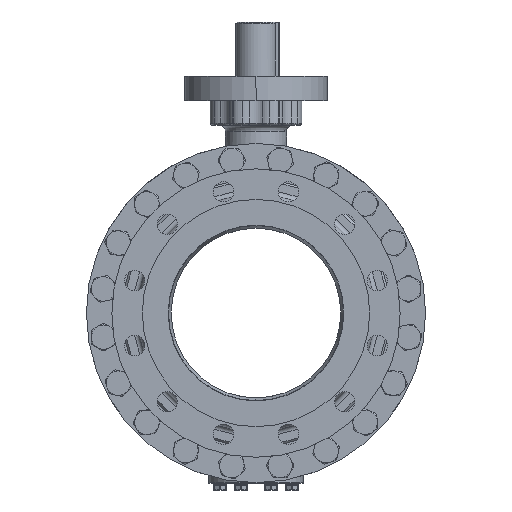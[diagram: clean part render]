
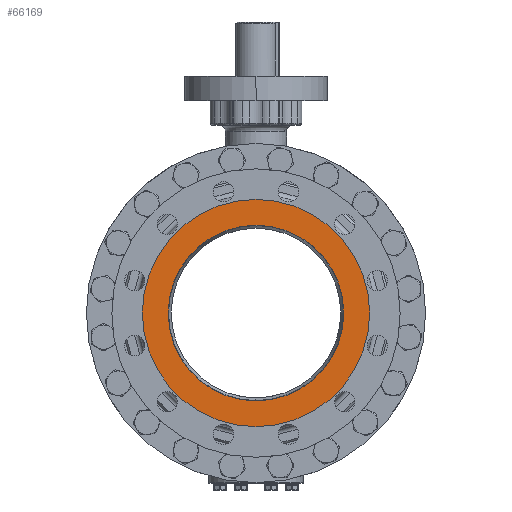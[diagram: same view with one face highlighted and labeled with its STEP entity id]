
A CAD part, left-side view. The second image highlights one B-rep face of the part: STEP entity #66169.
In plain terms, the highlighted planar face has unit normal (-1, 0, 0).
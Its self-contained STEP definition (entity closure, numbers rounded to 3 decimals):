
#4100=CARTESIAN_POINT('',(-266.5,0.,0.));
#4101=DIRECTION('',(1.,0.,0.));
#4102=DIRECTION('',(0.,0.,1.));
#4103=AXIS2_PLACEMENT_3D('',#4100,#4101,#4102);
#4105=CARTESIAN_POINT('',(-266.5,0.,0.));
#4106=DIRECTION('',(1.,0.,0.));
#4107=DIRECTION('',(0.,0.,-1.));
#4108=AXIS2_PLACEMENT_3D('',#4105,#4106,#4107);
#4110=CARTESIAN_POINT('',(-266.5,0.,0.));
#4111=DIRECTION('',(1.,0.,0.));
#4112=DIRECTION('',(0.,0.,1.));
#4113=AXIS2_PLACEMENT_3D('',#4110,#4111,#4112);
#4115=CARTESIAN_POINT('',(-266.5,0.,0.));
#4116=DIRECTION('',(-1.,0.,0.));
#4117=DIRECTION('',(0.,0.,1.));
#4118=AXIS2_PLACEMENT_3D('',#4115,#4116,#4117);
#55539=CARTESIAN_POINT('',(-266.5,0.,129.4));
#55541=VERTEX_POINT('',#55539);
#55543=CARTESIAN_POINT('',(-266.5,0.,-129.4));
#55545=VERTEX_POINT('',#55543);
#55574=CARTESIAN_POINT('',(-266.5,0.,167.5));
#55575=CARTESIAN_POINT('',(-266.5,0.,-167.5));
#55576=VERTEX_POINT('',#55574);
#55577=VERTEX_POINT('',#55575);
#66153=CARTESIAN_POINT('',(-266.5,0.,0.));
#66154=DIRECTION('',(-1.,0.,0.));
#66155=DIRECTION('',(0.,0.,-1.));
#66156=AXIS2_PLACEMENT_3D('',#66153,#66154,#66155);
#66157=PLANE('',#66156);
#66159=ORIENTED_EDGE('',*,*,#66158,.T.);
#66160=ORIENTED_EDGE('',*,*,#66143,.T.);
#66161=EDGE_LOOP('',(#66159,#66160));
#66162=FACE_OUTER_BOUND('',#66161,.F.);
#66164=ORIENTED_EDGE('',*,*,#66163,.F.);
#66166=ORIENTED_EDGE('',*,*,#66165,.T.);
#66167=EDGE_LOOP('',(#66164,#66166));
#66168=FACE_BOUND('',#66167,.F.);
#66169=ADVANCED_FACE('',(#66162,#66168),#66157,.T.);
#4104=CIRCLE('',#4103,167.5);
#4109=CIRCLE('',#4108,167.5);
#4114=CIRCLE('',#4113,129.4);
#4119=CIRCLE('',#4118,129.4);
#66143=EDGE_CURVE('',#55577,#55576,#4109,.T.);
#66158=EDGE_CURVE('',#55576,#55577,#4104,.T.);
#66163=EDGE_CURVE('',#55541,#55545,#4114,.T.);
#66165=EDGE_CURVE('',#55541,#55545,#4119,.T.);
